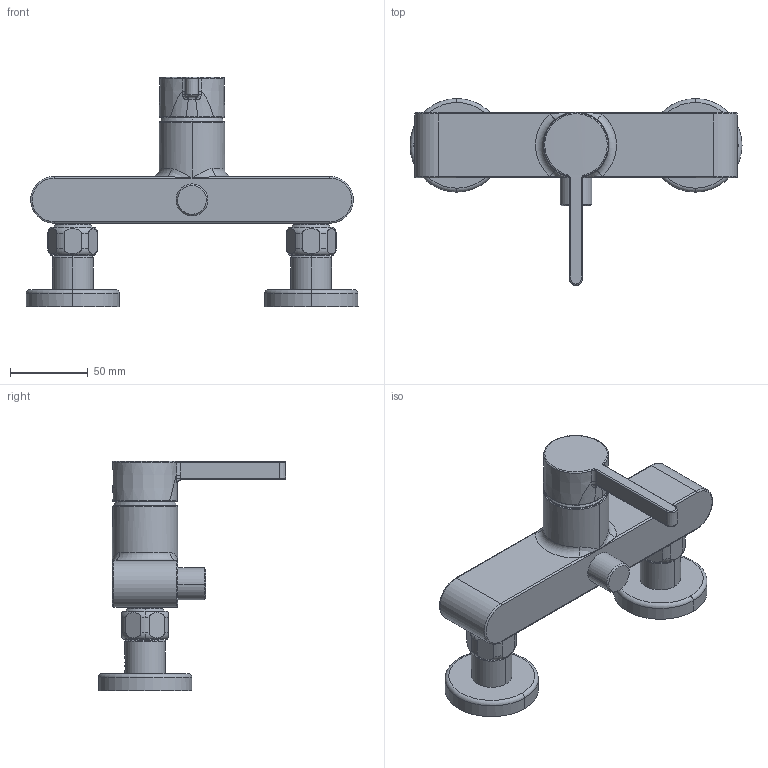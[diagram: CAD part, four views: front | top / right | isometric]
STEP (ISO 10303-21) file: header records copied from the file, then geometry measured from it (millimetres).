
FILE_DESCRIPTION((''),'2;1');
FILE_NAME('21_422_010_000_ASM','2019-09-23T17:26:21',('DB991'),(''),'CREO PARAMETRIC BY PTC INC, 2018500','CREO PARAMETRIC BY PTC INC, 2018500','');
FILE_SCHEMA(('CONFIG_CONTROL_DESIGN'));
Length unit declared in the file: millimetre
Products named in the file (2): 21422010_2_1; 21_422_010_000_ASM
Assembly tree (1 placements, depth 2):
  21_422_010_000_ASM
    21422010_2_1
Bounding box: 213 x 120.1 x 147.3 mm (x, y, z)
Volume: 466356.7 mm3; surface area: 65447.1 mm2
Topology: 1 solids, 1 shells, 263 faces, 705 edges, 459 vertices
Faces by surface type: plane 78, cylinder 77, torus 65, bspline 21, cone 15, sphere 7
Entity records: 10705 total; most frequent: CARTESIAN_POINT 4174, ORIENTED_EDGE 1404, DIRECTION 1362, EDGE_CURVE 702, AXIS2_PLACEMENT_3D 593, VERTEX_POINT 459, CIRCLE 348, EDGE_LOOP 281
